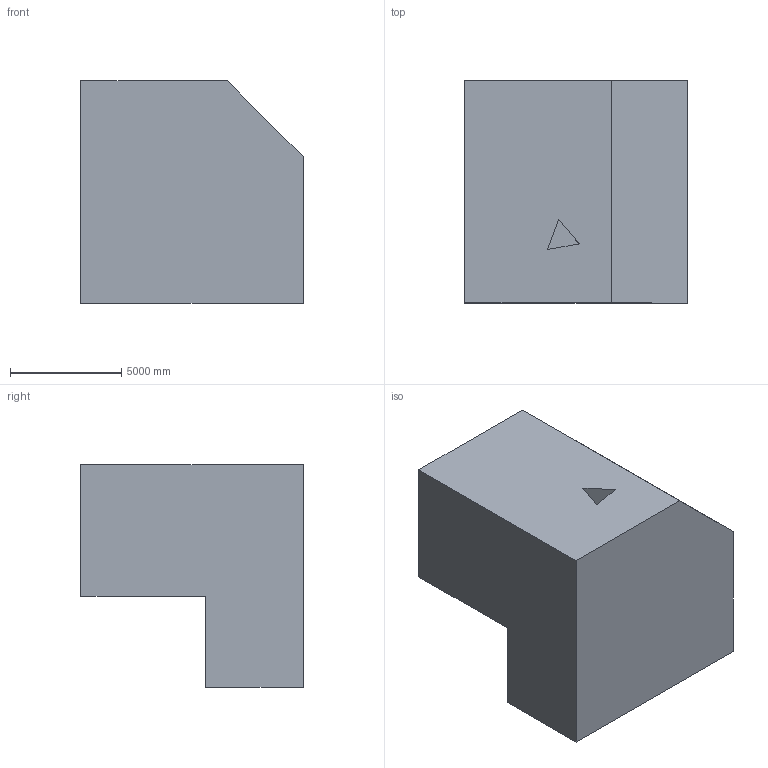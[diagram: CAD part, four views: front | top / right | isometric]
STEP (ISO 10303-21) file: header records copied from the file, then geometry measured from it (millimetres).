
FILE_DESCRIPTION (( 'STEP AP203' ), '1' );
FILE_NAME ('43.STEP', '2022-08-31T11:15:56', ( 'user' ), ( '' ), 'SwSTEP 2.0', 'SolidWorks 2021', '' );
FILE_SCHEMA (( 'CONFIG_CONTROL_DESIGN' ));
Length unit declared in the file: centimetre
Products named in the file (1): 43
Bounding box: 10000 x 10000 x 10000 mm (x, y, z)
Volume: 683494629249.9 mm3; surface area: 553978479.8 mm2
Topology: 1 solids, 1 shells, 14 faces, 33 edges, 22 vertices
Faces by surface type: plane 14
Entity records: 474 total; most frequent: CARTESIAN_POINT 70, ORIENTED_EDGE 66, DIRECTION 63, VECTOR 33, EDGE_CURVE 33, LINE 33, VERTEX_POINT 22, AXIS2_PLACEMENT_3D 15
